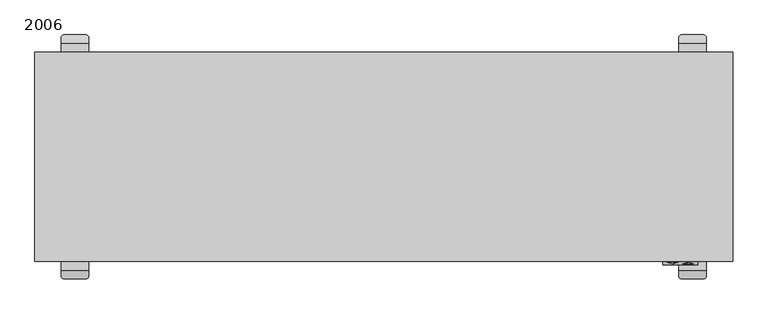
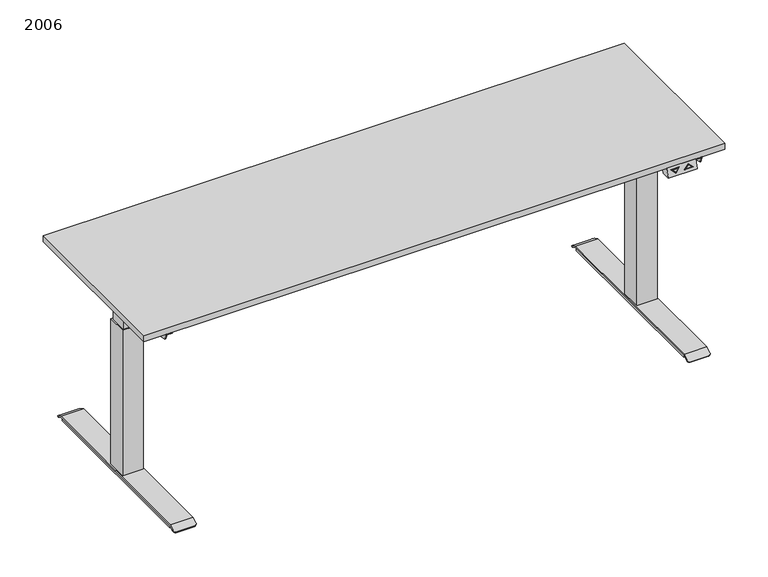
"""IFC4 building model written with IfcOpenShell, lengths in millimetres: furniture geometry, PINTA EQC : 2006."""

from ifc_helpers import new_model, si_unit, point, frame, frame_2d, origin, origin_with_axes, place, context, project, spatial, polyline, circle_curve, trimmed, segment, composite_curve, outline, extrude, faceted_brep, source, transform, mapped, element, save
from ifc_brep_helpers import plane_surface, cylinder_surface, advanced_brep


def furniture_2006_ade33b07(model_context):
    return source(origin(), model_context, "Body", "SolidModel", [
        faceted_brep([(800.0, -610.0, 668.0), (800.0, -580.0, 668.0), (900.0, -580.0, 668.0), (900.0, -610.0, 668.0), (800.0, -600.0, 698.0), (900.0, -600.0, 698.0), (900.0, -570.0, 698.0), (800.0, -570.0, 698.0), (812.5, -602.6491106, 690.0526681), (842.5, -602.6491106, 690.0526681), (827.5, -607.3925271, 675.8224186), (887.5, -606.9174824, 677.2475529), (857.5, -606.9174824, 677.2475529), (872.5, -602.1740659, 691.4778023), (827.5, -606.4980999, 678.5057002), (837.6715729, -603.2815662, 688.1553015), (817.3284271, -603.2815662, 688.1553015), (882.6715729, -606.2850268, 679.1449195), (872.5, -603.0684931, 688.7945208), (862.3284271, -606.2850268, 679.1449195), (842.5, -601.7004273, 689.7364403), (812.5, -601.7004273, 689.7364403), (827.5, -606.4438438, 675.5061908), (837.6715729, -602.3328829, 687.8390737), (827.5, -605.5494166, 678.1894724), (817.3284271, -602.3328829, 687.8390737), (857.5, -605.9687991, 676.9313251), (887.5, -605.9687991, 676.9313251), (872.5, -601.2253826, 691.1615746), (872.5, -602.1198098, 688.478293), (882.6715729, -605.3363436, 678.8286917), (862.3284271, -605.3363436, 678.8286917)], [[[0, 1, 2, 3]], [[4, 5, 6, 7]], [[1, 0, 4, 7]], [[3, 2, 6, 5]], [[0, 3, 5, 4], [8, 9, 10], [11, 12, 13]], [[14, 15, 16]], [[17, 18, 19]], [[2, 1, 7, 6]], [[20, 21, 22], [23, 24, 25]], [[26, 27, 28], [29, 30, 31]], [[21, 20, 9, 8]], [[22, 21, 8, 10]], [[20, 22, 10, 9]], [[27, 26, 12, 11]], [[28, 27, 11, 13]], [[26, 28, 13, 12]], [[24, 23, 15, 14]], [[25, 24, 14, 16]], [[23, 25, 16, 15]], [[30, 29, 18, 17]], [[31, 30, 17, 19]], [[29, 31, 19, 18]]]),
        extrude(outline(polyline([(-920.0, -219.7732113), (920.0, -219.7733158), (920.0, -239.7733158), (-920.0, -239.7732113), (-920.0, -219.7732113)])), frame((0.0, 0.0, 658.0), z_axis=(0.0, 0.0, 1.0), x_axis=(1.0, 0.0, 0.0)), (0.0, 0.0, 1.0), 40.0),
        extrude(outline(polyline([(-920.0, -359.7732114), (920.0, -359.7733158), (920.0, -379.7733158), (-920.0, -379.7732114), (-920.0, -359.7732114)])), frame((0.0, 0.0, 658.0), z_axis=(0.0, 0.0, 1.0), x_axis=(1.0, 0.0, 0.0)), (0.0, 0.0, 1.0), 40.0),
        extrude(outline(polyline([(-1000.0, -600.0), (-1000.0, 0.0), (1000.0, 0.0), (1000.0, -600.0), (-1000.0, -600.0)])), frame((0.0, 0.0, 698.0), z_axis=(0.0, 0.0, 1.0), x_axis=(1.0, 0.0, 0.0)), (0.0, 0.0, 1.0), 22.0),
        advanced_brep(
        [(846.9772339, -620.0, 6.0), (846.9772339, -620.0, 16.0), (846.9772339, 20.0, 16.0), (846.9772339, 20.0, 6.0), (923.0227661, 20.0, 16.0), (923.0227661, 20.0, 6.0), (923.0227661, -620.0, 16.0), (923.0227661, -620.0, 6.0), (846.0, 25.0, 20.0), (846.0, 43.0199519, 9.908827), (846.0, 41.0655384, 6.4188029), (846.0, 23.9562578, 16.0), (846.0, -623.9562578, 16.0), (846.0, -641.0655384, 6.4188029), (846.0, -643.0199519, 9.908827), (846.0, -625.0, 20.0), (924.0, 23.9562578, 16.0), (924.0, 41.0655384, 6.4188029), (924.0, 43.0199519, 9.908827), (924.0, 25.0, 20.0), (924.0, -625.0, 20.0), (924.0, -643.0199519, 9.908827), (924.0, -641.0655384, 6.4188029), (924.0, -623.9562578, 16.0), (854.0, -650.0, 6.0), (916.0, -650.0, 6.0), (854.0, -648.0455865, 2.5099759), (916.0, -648.0455865, 2.5099759), (854.0, 48.0455865, 2.5099759), (916.0, 48.0455865, 2.5099759), (854.0, 50.0, 6.0), (916.0, 50.0, 6.0)],
        [
            (0, 1),
            (1, 2),
            (2, 3),
            (3, 0),
            (2, 4),
            (4, 5),
            (5, 3),
            (4, 6),
            (6, 7),
            (7, 5),
            (6, 1),
            (0, 7),
            (8, 9),
            (9, 10),
            (10, 11),
            (11, 12),
            (12, 13),
            (13, 14),
            (14, 15),
            (15, 8),
            (16, 17),
            (17, 18),
            (18, 19),
            (19, 20),
            (20, 21),
            (21, 22),
            (22, 23),
            (23, 16),
            (15, 20),
            (19, 8),
            (11, 16),
            (23, 12),
            (14, 24, circle_curve(frame((854.0, -643.0199519, 9.908827), z_axis=(0.0, -0.4886033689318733, 0.8725060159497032), x_axis=(0.0, 0.8725060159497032, 0.4886033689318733)), 8.0)),
            (24, 25),
            (25, 21, circle_curve(frame((916.0, -643.0199519, 9.908827), z_axis=(0.0, -0.4886033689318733, 0.8725060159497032), x_axis=(0.0, 0.8725060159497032, 0.4886033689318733)), 8.0)),
            (24, 26),
            (26, 27),
            (27, 25),
            (22, 27, circle_curve(frame((916.0, -641.0655384, 6.4188029), z_axis=(0.0, 0.4886033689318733, -0.8725060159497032), x_axis=(0.0, 0.8725060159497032, 0.4886033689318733)), 8.0)),
            (26, 13, circle_curve(frame((854.0, -641.0655384, 6.4188029), z_axis=(0.0, 0.4886033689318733, -0.8725060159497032), x_axis=(0.0, 0.8725060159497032, 0.4886033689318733)), 8.0)),
            (10, 28, circle_curve(frame((854.0, 41.0655384, 6.4188029), z_axis=(0.0, -0.4886033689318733, -0.8725060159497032), x_axis=(0.0, -0.8725060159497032, 0.4886033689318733)), 8.0)),
            (28, 29),
            (29, 17, circle_curve(frame((916.0, 41.0655384, 6.4188029), z_axis=(0.0, -0.4886033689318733, -0.8725060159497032), x_axis=(0.0, -0.8725060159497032, 0.4886033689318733)), 8.0)),
            (28, 30),
            (30, 31),
            (31, 29),
            (18, 31, circle_curve(frame((916.0, 43.0199519, 9.908827), z_axis=(0.0, 0.4886033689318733, 0.8725060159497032), x_axis=(0.0, -0.8725060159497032, 0.4886033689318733)), 8.0)),
            (30, 9, circle_curve(frame((854.0, 43.0199519, 9.908827), z_axis=(0.0, 0.4886033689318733, 0.8725060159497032), x_axis=(0.0, -0.8725060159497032, 0.4886033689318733)), 8.0)),
        ],
        [
            plane_surface(frame((846.9772339, -620.0, 16.0), z_axis=(-1.0, 0.0, 0.0), x_axis=(0.0, 0.0, -1.0))),
            plane_surface(frame((846.9772339, 20.0, 16.0), z_axis=(0.0, 1.0, 0.0), x_axis=(0.0, 0.0, -1.0))),
            plane_surface(frame((923.0227661, 20.0, 16.0), z_axis=(1.0, 0.0, 0.0), x_axis=(0.0, 0.0, -1.0))),
            plane_surface(frame((923.0227661, -620.0, 16.0), z_axis=(0.0, -1.0, 0.0), x_axis=(0.0, 0.0, -1.0))),
            plane_surface(frame((846.9772339, -623.4188232, 6.0), z_axis=(0.0, 0.0, -1.0), x_axis=(0.0, -1.0, 0.0))),
            plane_surface(frame((846.0, -300.0, 20.0), z_axis=(-1.0, 0.0, 0.0), x_axis=(0.0, -1.0, 0.0))),
            plane_surface(frame((924.0, -300.0, 20.0), z_axis=(1.0, 0.0, 0.0), x_axis=(0.0, 1.0, 0.0))),
            plane_surface(frame((846.0, 25.0, 20.0), z_axis=(0.0, 0.0, 1.0), x_axis=(1.0, 0.0, 0.0))),
            plane_surface(frame((846.0, -623.9562578, 16.0), z_axis=(0.0, 0.0, -1.0), x_axis=(1.0, 0.0, 0.0))),
            plane_surface(frame((846.0, -625.0, 20.0), z_axis=(0.0, -0.4886033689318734, 0.8725060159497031), x_axis=(1.0, 0.0, 0.0))),
            plane_surface(frame((846.0, -650.0, 6.0), z_axis=(0.0, -0.872506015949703, -0.4886033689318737), x_axis=(1.0, 0.0, 0.0))),
            plane_surface(frame((846.0, -648.0455865, 2.5099759), z_axis=(0.0, 0.4886033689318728, -0.8725060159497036), x_axis=(1.0, 0.0, 0.0))),
            plane_surface(frame((846.0, 23.9562578, 16.0), z_axis=(0.0, -0.4886033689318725, -0.8725060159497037), x_axis=(1.0, 0.0, 0.0))),
            plane_surface(frame((846.0, 48.0455865, 2.5099759), z_axis=(0.0, 0.8725060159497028, -0.48860336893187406), x_axis=(1.0, 0.0, 0.0))),
            plane_surface(frame((846.0, 50.0, 6.0), z_axis=(0.0, 0.48860336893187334, 0.8725060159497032), x_axis=(1.0, 0.0, 0.0))),
            cylinder_surface(frame((854.0, -643.0199519, 9.908827), z_axis=(0.0, -0.4886033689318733, 0.8725060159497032), x_axis=(0.0, 0.8725060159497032, 0.4886033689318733)), 8.0),
            cylinder_surface(frame((916.0, -643.0199519, 9.908827), z_axis=(0.0, -0.4886033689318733, 0.8725060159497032), x_axis=(0.0, 0.8725060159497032, 0.4886033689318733)), 8.0),
            cylinder_surface(frame((854.0, 43.0199519, 9.908827), z_axis=(0.0, 0.4886033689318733, 0.8725060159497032), x_axis=(0.0, -0.8725060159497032, 0.4886033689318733)), 8.0),
            cylinder_surface(frame((916.0, 43.0199519, 9.908827), z_axis=(0.0, 0.4886033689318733, 0.8725060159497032), x_axis=(0.0, -0.8725060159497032, 0.4886033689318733)), 8.0),
        ],
        [
            (0, [[1, 2, 3, 4]]),
            (1, [[-3, 5, 6, 7]]),
            (2, [[-6, 8, 9, 10]]),
            (3, [[-9, 11, -1, 12]]),
            (4, [[-4, -7, -10, -12]]),
            (5, [[13, 14, 15, 16, 17, 18, 19, 20]]),
            (6, [[21, 22, 23, 24, 25, 26, 27, 28]]),
            (7, [[29, -24, 30, -20]]),
            (8, [[31, -28, 32, -16], [-11, -8, -5, -2]]),
            (9, [[-19, 33, 34, 35, -25, -29]]),
            (10, [[36, 37, 38, -34]]),
            (11, [[-27, 39, -37, 40, -17, -32]]),
            (12, [[-15, 41, 42, 43, -21, -31]]),
            (13, [[44, 45, 46, -42]]),
            (14, [[-23, 47, -45, 48, -13, -30]]),
            (15, [[-40, -36, -33, -18]]),
            (16, [[-35, -38, -39, -26]]),
            (17, [[-48, -44, -41, -14]]),
            (18, [[-43, -46, -47, -22]]),
        ],
    ),
        faceted_brep([(719.4551307, -360.0, 698.0), (902.9996948, -360.0, 698.0), (902.9996948, -600.0, 698.0), (919.4551307, -600.0, 698.0), (923.0, -600.0, 698.0), (923.0, 0.0, 698.0), (919.4551307, 0.0, 698.0), (902.9996948, 0.0, 698.0), (902.9996948, -240.0, 698.0), (719.4551307, -240.0, 698.0), (719.4551307, -360.0, 635.2327881), (719.4551307, -240.0, 635.2327881), (919.4551307, -240.0, 635.2327881), (919.4551307, -203.8252348, 635.2327881), (923.0, -203.8252348, 635.2327881), (923.0, -396.1747652, 635.2327881), (919.4551307, -396.1747652, 635.2327881), (919.4551307, -360.0, 635.2327881), (902.9996948, -240.0, 694.9093018), (919.4551307, -240.0, 694.9093018), (919.4551307, -360.0, 694.9093018), (902.9996948, -360.0, 694.9093018), (919.4551307, -600.0, 694.9093018), (902.9996948, -600.0, 694.9093018), (919.4551307, 0.0, 694.9093018), (902.9996948, 0.0, 694.9093018), (919.4551307, -1.1249222, 694.9093018), (919.4551307, -598.8750778, 694.9093018), (919.4551307, -8.5505036, 674.5076845), (919.4551307, -591.4494964, 674.5076845), (923.0, -8.5505036, 674.5076845), (923.0, -591.4494964, 674.5076845)], [[[0, 1, 2, 3, 4, 5, 6, 7, 8, 9]], [[10, 11, 12, 13, 14, 15, 16, 17]], [[9, 11, 10, 0]], [[11, 9, 8, 18, 19, 12]], [[17, 20, 21, 1, 0, 10]], [[22, 3, 2, 23]], [[24, 25, 7, 6]], [[24, 26, 19, 18, 25]], [[23, 21, 20, 27, 22]], [[2, 1, 21, 23]], [[25, 18, 8, 7]], [[13, 12, 19, 26, 28]], [[29, 27, 20, 17, 16]], [[15, 14, 30, 5, 4, 31]], [[16, 15, 31, 29]], [[22, 27, 3]], [[6, 26, 24]], [[4, 3, 27, 29, 31]], [[28, 30, 14, 13]], [[30, 28, 26, 6, 5]]]),
        extrude(outline(composite_curve([segment(trimmed(circle_curve(frame_2d((885.0, -605.0)), 25.0), [point((910.0, -605.0))], [point((860.0, -605.0))], False, "CARTESIAN"), True, "CONTINUOUS"), segment(trimmed(circle_curve(frame_2d((885.0, -605.0)), 25.0), [point((860.0, -605.0))], [point((910.0, -605.0))], False, "CARTESIAN"), True, "CONTINUOUS")], self_intersect=False)), origin_with_axes(), (0.0, 0.0, 1.0), 6.0),
        extrude(outline(composite_curve([segment(trimmed(circle_curve(frame_2d((885.0, 5.0)), 25.0), [point((910.0, 5.0))], [point((860.0, 5.0))], False, "CARTESIAN"), True, "CONTINUOUS"), segment(trimmed(circle_curve(frame_2d((885.0, 5.0)), 25.0), [point((860.0, 5.0))], [point((910.0, 5.0))], False, "CARTESIAN"), True, "CONTINUOUS")], self_intersect=False)), origin_with_axes(), (0.0, 0.0, 1.0), 6.0),
        faceted_brep([(850.0, -265.0, 550.0), (850.0, -334.9621325, 550.0), (920.0, -334.9621325, 550.0), (920.0, -265.0, 550.0), (915.0, -270.0, 550.0), (915.0, -329.9621325, 550.0), (855.0, -329.9621325, 550.0), (855.0, -270.0, 550.0), (850.0, -265.0, 20.0), (920.0, -265.0, 20.0), (920.0, -334.9621325, 20.0), (850.0, -334.9621325, 20.0), (855.0, -270.0, 592.616394), (855.0, -329.9621325, 592.616394), (915.0, -329.9621325, 592.616394), (915.0, -270.0, 592.616394), (910.0, -275.0, 592.616394), (910.0, -324.9621325, 592.616394), (860.0, -324.9621325, 592.616394), (860.0, -275.0, 592.616394), (860.0, -275.0, 635.2327881), (860.0, -324.9621325, 635.2327881), (910.0, -324.9621325, 635.2327881), (910.0, -275.0, 635.2327881)], [[[0, 1, 2, 3], [4, 5, 6, 7]], [[8, 9, 10, 11]], [[3, 9, 8, 0]], [[2, 10, 9, 3]], [[1, 11, 10, 2]], [[0, 8, 11, 1]], [[12, 13, 14, 15], [16, 17, 18, 19]], [[15, 4, 7, 12]], [[14, 5, 4, 15]], [[13, 6, 5, 14]], [[12, 7, 6, 13]], [[20, 21, 22, 23]], [[23, 16, 19, 20]], [[22, 17, 16, 23]], [[21, 18, 17, 22]], [[20, 19, 18, 21]]]),
        advanced_brep(
        [(-846.9772339, -620.0, 6.0), (-846.9772339, 20.0, 6.0), (-846.9772339, 20.0, 16.0), (-846.9772339, -620.0, 16.0), (-923.0227661, 20.0, 6.0), (-923.0227661, 20.0, 16.0), (-923.0227661, -620.0, 6.0), (-923.0227661, -620.0, 16.0), (-846.0, 25.0, 20.0), (-846.0, -625.0, 20.0), (-846.0, -643.0199519, 9.908827), (-846.0, -641.0655384, 6.4188029), (-846.0, -623.9562578, 16.0), (-846.0, 23.9562578, 16.0), (-846.0, 41.0655384, 6.4188029), (-846.0, 43.0199519, 9.908827), (-924.0, 23.9562578, 16.0), (-924.0, -623.9562578, 16.0), (-924.0, -641.0655384, 6.4188029), (-924.0, -643.0199519, 9.908827), (-924.0, -625.0, 20.0), (-924.0, 25.0, 20.0), (-924.0, 43.0199519, 9.908827), (-924.0, 41.0655384, 6.4188029), (-916.0, -650.0, 6.0), (-854.0, -650.0, 6.0), (-916.0, -648.0455865, 2.5099759), (-854.0, -648.0455865, 2.5099759), (-916.0, 48.0455865, 2.5099759), (-854.0, 48.0455865, 2.5099759), (-916.0, 50.0, 6.0), (-854.0, 50.0, 6.0)],
        [
            (0, 1),
            (1, 2),
            (2, 3),
            (3, 0),
            (1, 4),
            (4, 5),
            (5, 2),
            (4, 6),
            (6, 7),
            (7, 5),
            (6, 0),
            (3, 7),
            (8, 9),
            (9, 10),
            (10, 11),
            (11, 12),
            (12, 13),
            (13, 14),
            (14, 15),
            (15, 8),
            (16, 17),
            (17, 18),
            (18, 19),
            (19, 20),
            (20, 21),
            (21, 22),
            (22, 23),
            (23, 16),
            (8, 21),
            (20, 9),
            (12, 17),
            (16, 13),
            (19, 24, circle_curve(frame((-916.0, -643.0199519, 9.908827), z_axis=(0.0, -0.4886033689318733, 0.8725060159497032), x_axis=(0.0, 0.8725060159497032, 0.4886033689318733)), 8.0)),
            (24, 25),
            (25, 10, circle_curve(frame((-854.0, -643.0199519, 9.908827), z_axis=(0.0, -0.4886033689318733, 0.8725060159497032), x_axis=(0.0, 0.8725060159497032, 0.4886033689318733)), 8.0)),
            (24, 26),
            (26, 27),
            (27, 25),
            (11, 27, circle_curve(frame((-854.0, -641.0655384, 6.4188029), z_axis=(0.0, 0.4886033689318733, -0.8725060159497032), x_axis=(0.0, 0.8725060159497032, 0.4886033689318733)), 8.0)),
            (26, 18, circle_curve(frame((-916.0, -641.0655384, 6.4188029), z_axis=(0.0, 0.4886033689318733, -0.8725060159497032), x_axis=(0.0, 0.8725060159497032, 0.4886033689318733)), 8.0)),
            (23, 28, circle_curve(frame((-916.0, 41.0655384, 6.4188029), z_axis=(0.0, -0.4886033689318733, -0.8725060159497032), x_axis=(0.0, -0.8725060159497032, 0.4886033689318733)), 8.0)),
            (28, 29),
            (29, 14, circle_curve(frame((-854.0, 41.0655384, 6.4188029), z_axis=(0.0, -0.4886033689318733, -0.8725060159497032), x_axis=(0.0, -0.8725060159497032, 0.4886033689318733)), 8.0)),
            (28, 30),
            (30, 31),
            (31, 29),
            (15, 31, circle_curve(frame((-854.0, 43.0199519, 9.908827), z_axis=(0.0, 0.4886033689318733, 0.8725060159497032), x_axis=(0.0, -0.8725060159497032, 0.4886033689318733)), 8.0)),
            (30, 22, circle_curve(frame((-916.0, 43.0199519, 9.908827), z_axis=(0.0, 0.4886033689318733, 0.8725060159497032), x_axis=(0.0, -0.8725060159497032, 0.4886033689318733)), 8.0)),
        ],
        [
            plane_surface(frame((-846.9772339, -620.0, 16.0), z_axis=(1.0, 0.0, 0.0), x_axis=(0.0, 0.0, -1.0))),
            plane_surface(frame((-846.9772339, 20.0, 16.0), z_axis=(0.0, 1.0, 0.0), x_axis=(0.0, 0.0, -1.0))),
            plane_surface(frame((-923.0227661, 20.0, 16.0), z_axis=(-1.0, 0.0, 0.0), x_axis=(0.0, 0.0, -1.0))),
            plane_surface(frame((-923.0227661, -620.0, 16.0), z_axis=(0.0, -1.0, 0.0), x_axis=(0.0, 0.0, -1.0))),
            plane_surface(frame((-846.9772339, -623.4188232, 6.0), z_axis=(0.0, 0.0, -1.0), x_axis=(0.0, -1.0, 0.0))),
            plane_surface(frame((-846.0, -300.0, 20.0), z_axis=(1.0, 0.0, 0.0), x_axis=(0.0, -1.0, 0.0))),
            plane_surface(frame((-924.0, -300.0, 20.0), z_axis=(-1.0, 0.0, 0.0), x_axis=(0.0, 1.0, 0.0))),
            plane_surface(frame((-846.0, 25.0, 20.0), z_axis=(0.0, 0.0, 1.0), x_axis=(-1.0, 0.0, 0.0))),
            plane_surface(frame((-846.0, -623.9562578, 16.0), z_axis=(0.0, 0.0, -1.0), x_axis=(-1.0, 0.0, 0.0))),
            plane_surface(frame((-846.0, -625.0, 20.0), z_axis=(0.0, -0.4886033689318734, 0.8725060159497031), x_axis=(-1.0, 0.0, 0.0))),
            plane_surface(frame((-846.0, -650.0, 6.0), z_axis=(0.0, -0.872506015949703, -0.4886033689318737), x_axis=(-1.0, 0.0, 0.0))),
            plane_surface(frame((-846.0, -648.0455865, 2.5099759), z_axis=(0.0, 0.4886033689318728, -0.8725060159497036), x_axis=(-1.0, 0.0, 0.0))),
            plane_surface(frame((-846.0, 23.9562578, 16.0), z_axis=(0.0, -0.4886033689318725, -0.8725060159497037), x_axis=(-1.0, 0.0, 0.0))),
            plane_surface(frame((-846.0, 48.0455865, 2.5099759), z_axis=(0.0, 0.8725060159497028, -0.48860336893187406), x_axis=(-1.0, 0.0, 0.0))),
            plane_surface(frame((-846.0, 50.0, 6.0), z_axis=(0.0, 0.48860336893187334, 0.8725060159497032), x_axis=(-1.0, 0.0, 0.0))),
            cylinder_surface(frame((-854.0, -643.0199519, 9.908827), z_axis=(0.0, -0.4886033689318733, 0.8725060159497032), x_axis=(0.0, 0.8725060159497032, 0.4886033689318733)), 8.0),
            cylinder_surface(frame((-916.0, -643.0199519, 9.908827), z_axis=(0.0, -0.4886033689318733, 0.8725060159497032), x_axis=(0.0, 0.8725060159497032, 0.4886033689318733)), 8.0),
            cylinder_surface(frame((-854.0, 43.0199519, 9.908827), z_axis=(0.0, 0.4886033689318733, 0.8725060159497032), x_axis=(0.0, -0.8725060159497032, 0.4886033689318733)), 8.0),
            cylinder_surface(frame((-916.0, 43.0199519, 9.908827), z_axis=(0.0, 0.4886033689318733, 0.8725060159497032), x_axis=(0.0, -0.8725060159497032, 0.4886033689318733)), 8.0),
        ],
        [
            (0, [[1, 2, 3, 4]]),
            (1, [[5, 6, 7, -2]]),
            (2, [[8, 9, 10, -6]]),
            (3, [[11, -4, 12, -9]]),
            (4, [[-11, -8, -5, -1]]),
            (5, [[13, 14, 15, 16, 17, 18, 19, 20]]),
            (6, [[21, 22, 23, 24, 25, 26, 27, 28]]),
            (7, [[-13, 29, -25, 30]]),
            (8, [[-17, 31, -21, 32], [-3, -7, -10, -12]]),
            (9, [[-30, -24, 33, 34, 35, -14]]),
            (10, [[-34, 36, 37, 38]]),
            (11, [[-31, -16, 39, -37, 40, -22]]),
            (12, [[-32, -28, 41, 42, 43, -18]]),
            (13, [[-42, 44, 45, 46]]),
            (14, [[-29, -20, 47, -45, 48, -26]]),
            (15, [[-15, -35, -38, -39]]),
            (16, [[-23, -40, -36, -33]]),
            (17, [[-19, -43, -46, -47]]),
            (18, [[-27, -48, -44, -41]]),
        ],
    ),
        faceted_brep([(-719.4551307, -360.0, 698.0), (-719.4551307, -240.0, 698.0), (-902.9996948, -240.0, 698.0), (-902.9996948, 0.0, 698.0), (-919.4551307, 0.0, 698.0), (-923.0, 0.0, 698.0), (-923.0, -600.0, 698.0), (-919.4551307, -600.0, 698.0), (-902.9996948, -600.0, 698.0), (-902.9996948, -360.0, 698.0), (-719.4551307, -360.0, 635.2327881), (-919.4551307, -360.0, 635.2327881), (-919.4551307, -396.1747652, 635.2327881), (-923.0, -396.1747652, 635.2327881), (-923.0, -203.8252348, 635.2327881), (-919.4551307, -203.8252348, 635.2327881), (-919.4551307, -240.0, 635.2327881), (-719.4551307, -240.0, 635.2327881), (-919.4551307, -240.0, 694.9093018), (-902.9996948, -240.0, 694.9093018), (-902.9996948, -360.0, 694.9093018), (-919.4551307, -360.0, 694.9093018), (-919.4551307, -600.0, 694.9093018), (-902.9996948, -600.0, 694.9093018), (-919.4551307, 0.0, 694.9093018), (-902.9996948, 0.0, 694.9093018), (-919.4551307, -598.8750778, 694.9093018), (-919.4551307, -1.1249222, 694.9093018), (-919.4551307, -591.4494964, 674.5076845), (-919.4551307, -8.5505036, 674.5076845), (-923.0, -591.4494964, 674.5076845), (-923.0, -8.5505036, 674.5076845)], [[[0, 1, 2, 3, 4, 5, 6, 7, 8, 9]], [[10, 11, 12, 13, 14, 15, 16, 17]], [[1, 0, 10, 17]], [[17, 16, 18, 19, 2, 1]], [[11, 10, 0, 9, 20, 21]], [[22, 23, 8, 7]], [[24, 4, 3, 25]], [[23, 22, 26, 21, 20]], [[24, 25, 19, 18, 27]], [[8, 23, 20, 9]], [[25, 3, 2, 19]], [[28, 12, 11, 21, 26]], [[15, 29, 27, 18, 16]], [[13, 30, 6, 5, 31, 14]], [[12, 28, 30, 13]], [[22, 7, 26]], [[4, 24, 27]], [[6, 30, 28, 26, 7]], [[29, 15, 14, 31]], [[31, 5, 4, 27, 29]]]),
        extrude(outline(composite_curve([segment(trimmed(circle_curve(frame_2d((-885.0, -605.0)), 25.0), [point((-910.0, -605.0))], [point((-860.0, -605.0))], False, "CARTESIAN"), True, "CONTINUOUS"), segment(trimmed(circle_curve(frame_2d((-885.0, -605.0)), 25.0), [point((-860.0, -605.0))], [point((-910.0, -605.0))], False, "CARTESIAN"), True, "CONTINUOUS")], self_intersect=False)), origin_with_axes(), (0.0, 0.0, 1.0), 6.0),
        extrude(outline(composite_curve([segment(trimmed(circle_curve(frame_2d((-885.0, 5.0)), 25.0), [point((-910.0, 5.0))], [point((-860.0, 5.0))], False, "CARTESIAN"), True, "CONTINUOUS"), segment(trimmed(circle_curve(frame_2d((-885.0, 5.0)), 25.0), [point((-860.0, 5.0))], [point((-910.0, 5.0))], False, "CARTESIAN"), True, "CONTINUOUS")], self_intersect=False)), origin_with_axes(), (0.0, 0.0, 1.0), 6.0),
        faceted_brep([(-850.0, -265.0, 550.0), (-920.0, -265.0, 550.0), (-920.0, -334.9621325, 550.0), (-850.0, -334.9621325, 550.0), (-915.0, -270.0, 550.0), (-855.0, -270.0, 550.0), (-855.0, -329.9621325, 550.0), (-915.0, -329.9621325, 550.0), (-850.0, -265.0, 20.0), (-850.0, -334.9621325, 20.0), (-920.0, -334.9621325, 20.0), (-920.0, -265.0, 20.0), (-855.0, -270.0, 592.616394), (-915.0, -270.0, 592.616394), (-915.0, -329.9621325, 592.616394), (-855.0, -329.9621325, 592.616394), (-910.0, -275.0, 592.616394), (-860.0, -275.0, 592.616394), (-860.0, -324.9621325, 592.616394), (-910.0, -324.9621325, 592.616394), (-860.0, -275.0, 635.2327881), (-910.0, -275.0, 635.2327881), (-910.0, -324.9621325, 635.2327881), (-860.0, -324.9621325, 635.2327881)], [[[0, 1, 2, 3], [4, 5, 6, 7]], [[8, 9, 10, 11]], [[1, 0, 8, 11]], [[2, 1, 11, 10]], [[3, 2, 10, 9]], [[0, 3, 9, 8]], [[12, 13, 14, 15], [16, 17, 18, 19]], [[13, 12, 5, 4]], [[14, 13, 4, 7]], [[15, 14, 7, 6]], [[12, 15, 6, 5]], [[20, 21, 22, 23]], [[21, 20, 17, 16]], [[22, 21, 16, 19]], [[23, 22, 19, 18]], [[20, 23, 18, 17]]]),
    ])


if __name__ == "__main__":
    model = new_model("IFC4")
    model_context = context("Model", 3, world=origin())
    ifc_project = project(units=[si_unit("LENGTHUNIT", "METRE", prefix="MILLI")], contexts=[model_context])
    site = spatial("IfcSite", under=ifc_project)
    building = spatial("IfcBuilding", under=site)
    placement = place(None, origin())
    furniture_2006_shape = furniture_2006_ade33b07(model_context)
    element("IfcFurniture", 1, ObjectType="PINTA EQC : 2006", at=placement, inside=building, context=model_context, shape_type="MappedRepresentation", body=[
        mapped(furniture_2006_shape, transform((0.0, 0.0, 0.0), x_axis=(1.0, 0.0, 0.0), y_axis=(0.0, 1.0, 0.0), z_axis=(0.0, 0.0, 1.0))),
    ])
    save(model, "model.ifc")
